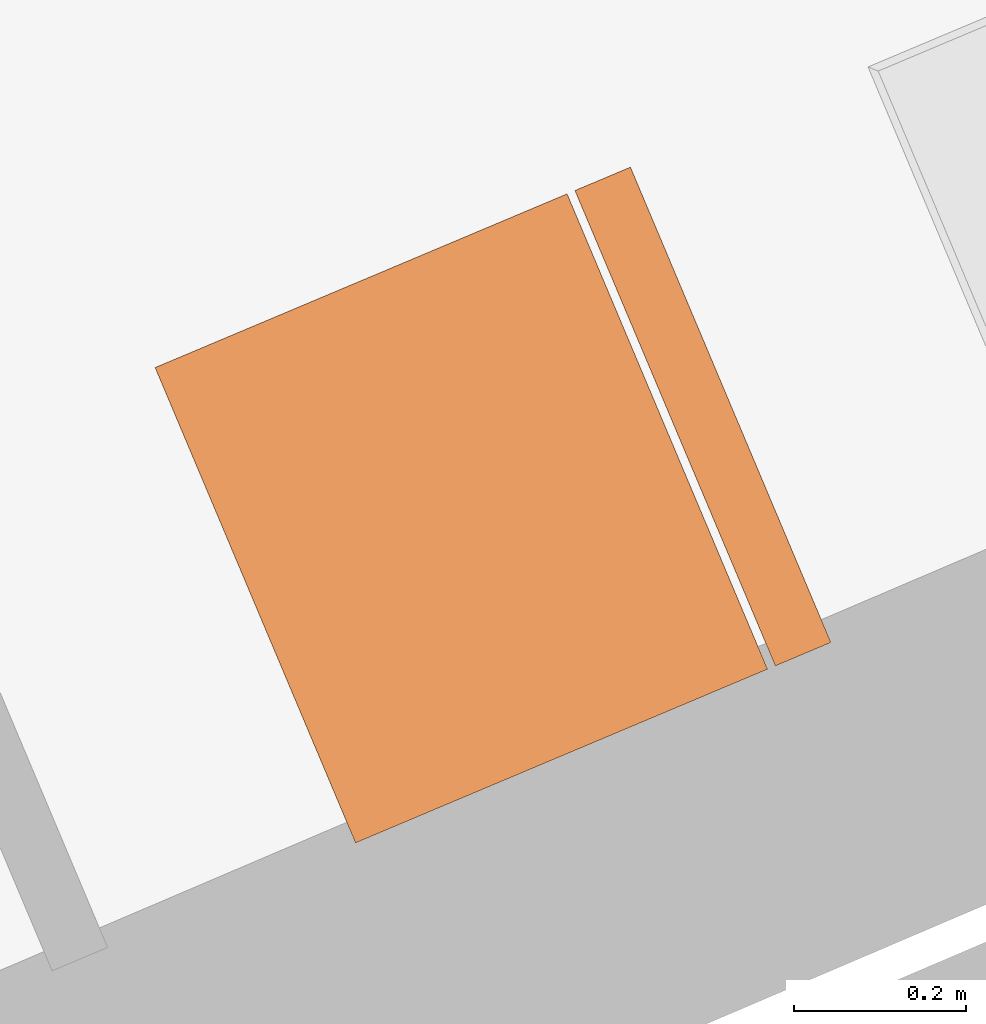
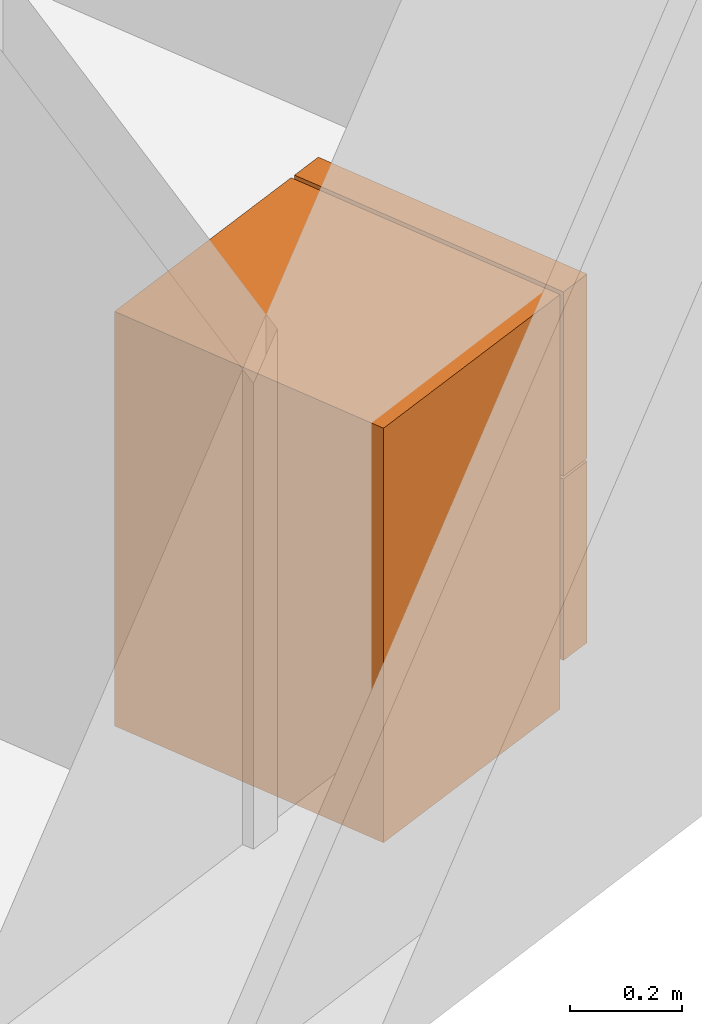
# One storey, part 117 of 121: 1 proxy.
"""IFC2X3 building model written with IfcOpenShell, lengths in metres."""

from ifc_helpers import new_model, entity, si_unit, converted_unit, derived_unit, money_unit, direction, frame, origin_with_axes, place, context, subcontext, project, spatial, open_shell, faceted_brep, surface_model, source, transform, mapped, type_object, element, save


model = new_model("IFC2X3")

# Units and contexts
model_context = context("Model", 3, precision=1e-05, world=origin_with_axes(), true_north=direction((0.0, 1.0)))
body_context = subcontext(model_context, "Body", "Model", "MODEL_VIEW")
ifc_project = project(units=[si_unit("LENGTHUNIT", "METRE"), si_unit("AREAUNIT", "SQUARE_METRE"), si_unit("VOLUMEUNIT", "CUBIC_METRE"), converted_unit("PLANEANGLEUNIT", "DEGREE", entity("IfcPlaneAngleMeasure", 0.0174532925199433), si_unit("PLANEANGLEUNIT", "RADIAN"), dimensions=[0, 0, 0, 0, 0, 0, 0]), money_unit("CHF"), converted_unit("TIMEUNIT", "Year", entity("IfcTimeMeasure", 31557600.0), si_unit("TIMEUNIT", "SECOND"), dimensions=[0, 0, 1, 0, 0, 0, 0]), si_unit("MASSUNIT", "GRAM", prefix="KILO"), si_unit("THERMODYNAMICTEMPERATUREUNIT", "DEGREE_CELSIUS"), si_unit("LUMINOUSINTENSITYUNIT", "LUMEN"), si_unit("ENERGYUNIT", "JOULE", prefix="MEGA"), derived_unit("THERMALCONDUCTANCEUNIT", [(si_unit("POWERUNIT", "WATT"), 1), (si_unit("LENGTHUNIT", "METRE"), -1), (si_unit("THERMODYNAMICTEMPERATUREUNIT", "KELVIN"), -1)]), derived_unit("SPECIFICHEATCAPACITYUNIT", [(si_unit("ENERGYUNIT", "JOULE"), 1), (si_unit("MASSUNIT", "GRAM", prefix="KILO"), -1), (si_unit("THERMODYNAMICTEMPERATUREUNIT", "KELVIN"), -1)]), derived_unit("MASSDENSITYUNIT", [(si_unit("MASSUNIT", "GRAM", prefix="KILO"), 1), (si_unit("VOLUMEUNIT", "CUBIC_METRE"), -1)])], contexts=[model_context])

# Site, building, storey
site_placement = place(None, origin_with_axes())
site = spatial("IfcSite", under=ifc_project, at=site_placement, Name="Site", CompositionType="ELEMENT")
building_placement = place(site_placement, origin_with_axes())
building = spatial("IfcBuilding", under=site, at=building_placement, Name="Bâtiment", CompositionType="ELEMENT")
storey_placement = place(building_placement, frame((0.0, 0.0, 2.75), z_axis=(0.0, 0.0, 1.0), x_axis=(1.0, 0.0, 0.0)))
storey = spatial("IfcBuildingStorey", under=building, at=storey_placement, Name="Etage 1", CompositionType="ELEMENT", Elevation=2.75)

# Proxy
building_element_proxy_type = type_object("IfcBuildingElementProxyType", PredefinedType="NOTDEFINED")
shared_shape = source(origin_with_axes(), body_context, "Body", "SurfaceModel", [
    faceted_brep([(0.0, 0.08, 0.1), (0.6, 0.08, 0.1), (0.6, 0.08, 0.9), (0.0, 0.08, 0.9), (0.0, 0.6, 0.1), (0.6, 0.6, 0.1), (0.6, 0.6, 0.9), (0.0, 0.6, 0.9)], [[[0, 1, 2, 3]], [[0, 4, 5, 1]], [[1, 5, 6, 2]], [[3, 2, 6, 7]], [[4, 0, 3, 7]], [[5, 4, 7, 6]]]),
    faceted_brep([(0.0, 0.08, 0.0), (0.6, 0.08, 0.0), (0.6, 0.08, 0.1), (0.0, 0.08, 0.1), (0.0, 0.6, 0.0), (0.6, 0.6, 0.0), (0.6, 0.6, 0.1), (0.0, 0.6, 0.1)], [[[0, 1, 2, 3]], [[0, 4, 5, 1]], [[1, 5, 6, 2]], [[3, 2, 6, 7]], [[4, 0, 3, 7]], [[5, 4, 7, 6]]]),
    faceted_brep([(0.0, 0.07, 0.1), (0.6, 0.07, 0.1), (0.6, 0.0, 0.1), (0.0, 0.0, 0.1), (0.0, 0.07000000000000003, 0.494), (0.6, 0.07000000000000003, 0.494), (0.6, 0.0, 0.494), (0.0, 0.0, 0.494)], [[[0, 1, 2, 3]], [[0, 4, 5, 1]], [[1, 5, 6, 2]], [[3, 2, 6, 7]], [[4, 0, 3, 7]], [[5, 4, 7, 6]]]),
    faceted_brep([(0.0, 0.07, 0.5), (0.6, 0.07, 0.5), (0.6, 0.0, 0.5), (0.0, 0.0, 0.5), (0.0, 0.07000000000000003, 0.9), (0.6, 0.07000000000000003, 0.9), (0.6, 0.0, 0.9), (0.0, 0.0, 0.9)], [[[0, 1, 2, 3]], [[0, 4, 5, 1]], [[1, 5, 6, 2]], [[3, 2, 6, 7]], [[4, 0, 3, 7]], [[5, 4, 7, 6]]]),
    surface_model("IfcShellBasedSurfaceModel", [(0.6, -0.03, 0.3), (0.6, -0.03, 0.4940000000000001), (0.6, 0.0, 0.4940000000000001), (0.6, 0.0, 0.3)], [open_shell([[[0, 1, 2, 3]]])]),
    surface_model("IfcShellBasedSurfaceModel", [(0.6, -0.03, 0.3), (0.6, -0.03, 0.4940000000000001), (0.57, -0.03, 0.4940000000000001), (0.57, -0.03, 0.3)], [open_shell([[[0, 1, 2, 3]]])]),
    surface_model("IfcShellBasedSurfaceModel", [(0.6, -0.03, 0.5), (0.6, -0.03, 0.7), (0.6, 0.0, 0.7), (0.6, 0.0, 0.5)], [open_shell([[[0, 1, 2, 3]]])]),
    surface_model("IfcShellBasedSurfaceModel", [(0.6, -0.03, 0.5), (0.6, -0.03, 0.7), (0.57, -0.03, 0.7), (0.57, -0.03, 0.5)], [open_shell([[[0, 1, 2, 3]]])]),
])
proxy_placement = place(storey_placement, frame((9577.658070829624, -1062.968995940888, 57.49999999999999), z_axis=(0.0, 0.0, 1.0), x_axis=(-0.3885045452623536, 0.9214468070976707, 0.0)))
element("IfcBuildingElementProxy", 1, at=proxy_placement, inside=storey, type_object=building_element_proxy_type, Name="Obj.-019", context=body_context, shape_type="MappedRepresentation", body=[
    mapped(shared_shape, transform((0.0, 0.0, 0.0))),
])

save(model, "model.ifc")
